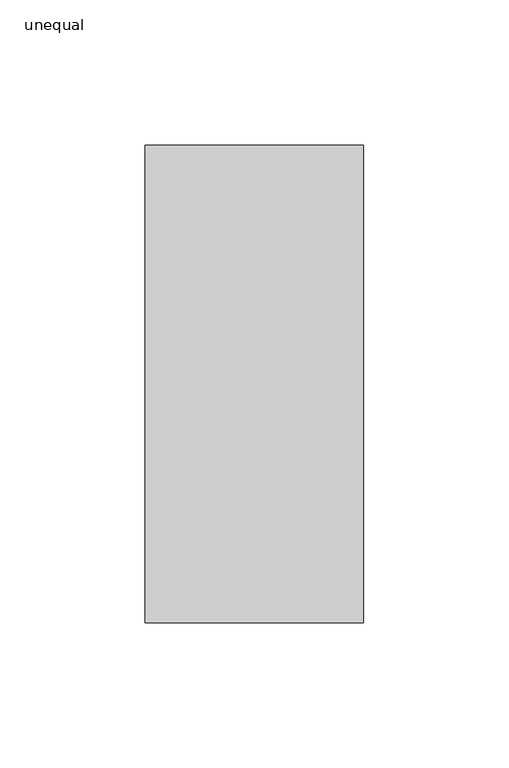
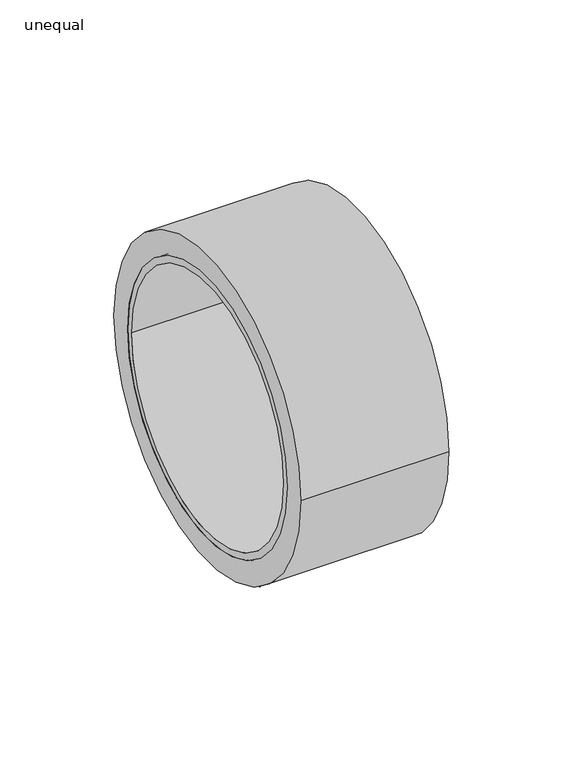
"""IFC4 building model written with IfcOpenShell, lengths in millimetres: pipe fitting geometry, PIF_ST_UN_GM-X compound pipe multi-tee_ACO : unequal."""

from ifc_helpers import new_model, si_unit, point, frame, origin, origin_2d, place, context, project, spatial, polyline, circle_curve, trimmed, segment, composite_curve, outline, extrude, source, transform, mapped, element, save
from ifc_brep_helpers import plane_surface, cylinder_surface, revolved_surface, advanced_brep


def unequal_56231cc0(model_context):
    return source(origin(), model_context, "Body", "SolidModel", [
        extrude(outline(composite_curve([segment(trimmed(circle_curve(origin_2d(), 82.0), [point((-82.0, 0.0))], [point((82.0, 0.0))], False, "CARTESIAN"), True, "CONTINUOUS"), segment(trimmed(circle_curve(origin_2d(), 82.0), [point((82.0, 0.0))], [point((-82.0, 0.0))], False, "CARTESIAN"), True, "CONTINUOUS")], self_intersect=False), holes=[composite_curve([segment(trimmed(circle_curve(origin_2d(), 70.0), [point((-70.0, 0.0))], [point((70.0, 0.0))], True, "CARTESIAN"), True, "CONTINUOUS"), segment(trimmed(circle_curve(origin_2d(), 70.0), [point((70.0, 0.0))], [point((-70.0, 0.0))], True, "CARTESIAN"), True, "CONTINUOUS")], self_intersect=False)]), frame((30.0, 0.0, 0.0), z_axis=(1.0, 0.0, 0.0), x_axis=(0.0, 1.0, 0.0)), (0.0, 0.0, 1.0), 75.0),
        advanced_brep(
        [(105.0, -70.0, 0.0), (105.0, 70.0, 0.0), (105.0, 66.5, 0.0), (105.0, -66.5, 0.0), (30.0, -70.0, 0.0), (30.0, 70.0, 0.0), (30.0, -66.5, 0.0), (30.0, 66.5, 0.0), (70.0, -70.0, 0.0), (70.0, 70.0, 0.0), (38.4, 70.0, 0.0), (38.4, -70.0, 0.0), (70.0, -76.0, 0.0), (70.0, 76.0, 0.0), (38.4, -76.0, 0.0), (38.4, 76.0, 0.0)],
        [
            (0, 1, circle_curve(frame((105.0, 0.0, 0.0), z_axis=(1.0, 0.0, 0.0), x_axis=(0.0, 1.0, 0.0)), 70.0)),
            (1, 0, circle_curve(frame((105.0, 0.0, 0.0), z_axis=(1.0, 0.0, 0.0), x_axis=(0.0, 1.0, 0.0)), 70.0)),
            (2, 3, circle_curve(frame((105.0, 0.0, 0.0), z_axis=(-1.0, 0.0, 0.0), x_axis=(0.0, 1.0, 0.0)), 66.5)),
            (3, 2, circle_curve(frame((105.0, 0.0, 0.0), z_axis=(-1.0, 0.0, 0.0), x_axis=(0.0, 1.0, 0.0)), 66.5)),
            (4, 5, circle_curve(frame((30.0, 0.0, 0.0), z_axis=(-1.0, 0.0, 0.0), x_axis=(0.0, 1.0, 0.0)), 70.0)),
            (5, 4, circle_curve(frame((30.0, 0.0, 0.0), z_axis=(-1.0, 0.0, 0.0), x_axis=(0.0, 1.0, 0.0)), 70.0)),
            (6, 7, circle_curve(frame((30.0, 0.0, 0.0), z_axis=(1.0, 0.0, 0.0), x_axis=(0.0, 1.0, 0.0)), 66.5)),
            (7, 6, circle_curve(frame((30.0, 0.0, 0.0), z_axis=(1.0, 0.0, 0.0), x_axis=(0.0, 1.0, 0.0)), 66.5)),
            (0, 8),
            (8, 9, circle_curve(frame((70.0, 0.0, 0.0), z_axis=(1.0, 0.0, 0.0), x_axis=(0.0, 1.0, 0.0)), 70.0)),
            (9, 1),
            (5, 10),
            (10, 11, circle_curve(frame((38.4, 0.0, 0.0), z_axis=(-1.0, 0.0, 0.0), x_axis=(0.0, 1.0, 0.0)), 70.0)),
            (11, 4),
            (9, 8, circle_curve(frame((70.0, 0.0, 0.0), z_axis=(1.0, 0.0, 0.0), x_axis=(0.0, 1.0, 0.0)), 70.0)),
            (11, 10, circle_curve(frame((38.4, 0.0, 0.0), z_axis=(-1.0, 0.0, 0.0), x_axis=(0.0, 1.0, 0.0)), 70.0)),
            (2, 7),
            (6, 3),
            (12, 13, circle_curve(frame((70.0, 0.0, 0.0), z_axis=(1.0, 0.0, 0.0), x_axis=(0.0, 1.0, 0.0)), 76.0)),
            (13, 12, circle_curve(frame((70.0, 0.0, 0.0), z_axis=(1.0, 0.0, 0.0), x_axis=(0.0, 1.0, 0.0)), 76.0)),
            (14, 15, circle_curve(frame((38.4, 0.0, 0.0), z_axis=(-1.0, 0.0, 0.0), x_axis=(0.0, 1.0, 0.0)), 76.0)),
            (15, 14, circle_curve(frame((38.4, 0.0, 0.0), z_axis=(-1.0, 0.0, 0.0), x_axis=(0.0, 1.0, 0.0)), 76.0)),
            (12, 14),
            (15, 13),
        ],
        [
            plane_surface(frame((105.0, 70.0, 0.0), z_axis=(1.0, 0.0, 0.0), x_axis=(0.0, 0.0, 1.0))),
            plane_surface(frame((30.0, 70.0, 0.0), z_axis=(-1.0, 0.0, 0.0), x_axis=(0.0, 0.0, -1.0))),
            cylinder_surface(frame((30.0, 0.0, 0.0), z_axis=(1.0, 0.0, 0.0), x_axis=(0.0, 1.0, 0.0)), 70.0),
            revolved_surface(polyline([(105.0, 66.5, 0.0), (30.0, 66.5, 0.0)]), (30.0, 0.0, 0.0), (1.0, 0.0, 0.0)),
            plane_surface(frame((70.0, 76.0, 0.0), z_axis=(1.0, 0.0, 0.0), x_axis=(0.0, 0.0, 1.0))),
            plane_surface(frame((38.4, 76.0, 0.0), z_axis=(-1.0, 0.0, 0.0), x_axis=(0.0, 0.0, -1.0))),
            cylinder_surface(frame((38.4, 0.0, 0.0), z_axis=(1.0, 0.0, 0.0), x_axis=(0.0, 1.0, 0.0)), 76.0),
        ],
        [
            (0, [[1, 2], [3, 4]]),
            (1, [[5, 6], [7, 8]]),
            (2, [[-1, 9, 10, 11]]),
            (2, [[-6, 12, 13, 14]]),
            (2, [[-2, -11, 15, -9]]),
            (2, [[-5, -14, 16, -12]]),
            (3, [[17, -7, 18, -3]]),
            (3, [[-17, -4, -18, -8]]),
            (4, [[19, 20], [-10, -15]]),
            (5, [[21, 22], [-13, -16]]),
            (6, [[-19, 23, -22, 24]]),
            (6, [[-20, -24, -21, -23]]),
        ],
    ),
    ])


if __name__ == "__main__":
    model = new_model("IFC4")
    model_context = context("Model", 3, world=origin())
    ifc_project = project(units=[si_unit("LENGTHUNIT", "METRE", prefix="MILLI")], contexts=[model_context])
    site = spatial("IfcSite", under=ifc_project)
    building = spatial("IfcBuilding", under=site)
    placement = place(None, origin())
    unequal_shape = unequal_56231cc0(model_context)
    element("IfcPipeFitting", 1, ObjectType="PIF_ST_UN_GM-X compound pipe multi-tee_ACO : unequal", at=placement, inside=building, context=model_context, shape_type="MappedRepresentation", body=[
        mapped(unequal_shape, transform((0.0, 0.0, 0.0), x_axis=(1.0, 0.0, 0.0), y_axis=(0.0, 1.0, 0.0), z_axis=(0.0, 0.0, 1.0))),
    ])
    save(model, "model.ifc")
